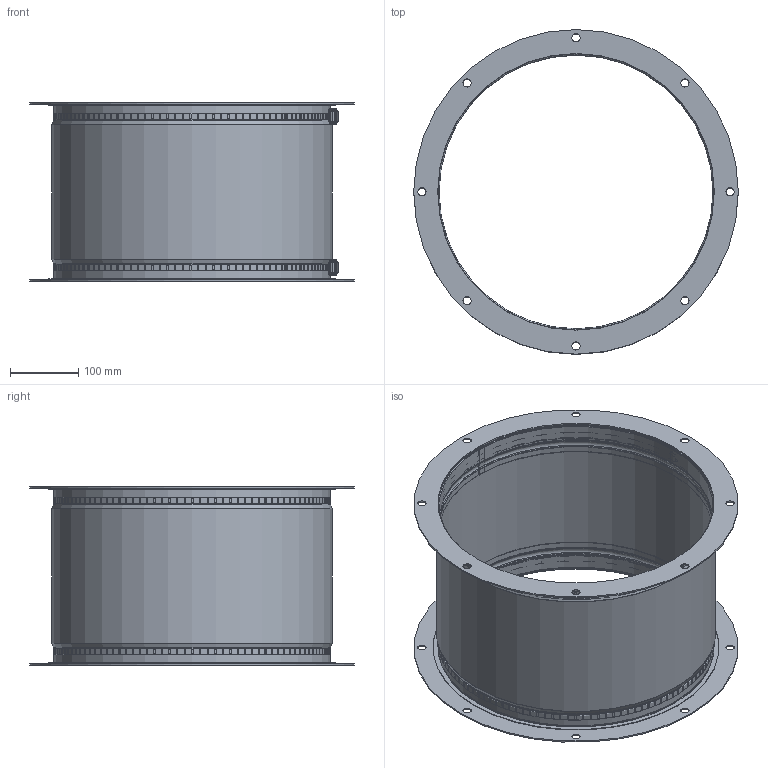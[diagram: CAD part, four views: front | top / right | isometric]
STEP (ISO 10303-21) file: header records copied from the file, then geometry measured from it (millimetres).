
FILE_DESCRIPTION(/* description */ ('Antivibration connector P-DRG ZPD-630 SE'),/* implementation_level */ '2;1');
FILE_NAME(/* name */ 'Y:\VaultRobocze\Designs\2\0\02\900 4590\2 002 900 4590.stp',/* time_stamp */ '2018-03-30T10:39:49+02:00',/* author */ ('TomaszCie'),/* organization */ (''),/* preprocessor_version */ 'ST-DEVELOPER v16.13',/* originating_system */ 'Autodesk Inventor 2018',/* authorisation */ '');
FILE_SCHEMA (('AUTOMOTIVE_DESIGN { 1 0 10303 214 3 1 1 }'));
Length unit declared in the file: millimetre
Products named in the file (10): 2 002 900 4590; 2 002 901 4590; 2 002 901 3691; 2 002 901 3692 1; Compensator ZPD-630 400C; Duct clisp SBF; k0043_1430701_03; k0043_1430701_02; k0043_1430701_01; Tape SBF
Assembly tree (12 placements, depth 3):
  2 002 900 4590
    2 002 901 4590  x2
      2 002 901 3691
      2 002 901 3692 1
    Compensator ZPD-630 400C
    Duct clisp SBF  x2
      k0043_1430701_03
      k0043_1430701_02
      k0043_1430701_01
    Tape SBF  x2
Bounding box: 474 x 474 x 260 mm (x, y, z)
Volume: 508517.6 mm3; surface area: 1209389 mm2
Topology: 13 solids, 13 shells, 2732 faces, 7304 edges, 4842 vertices
Faces by surface type: plane 1554, cylinder 1130, bspline 28, torus 16, cone 4
Full cylindrical faces by diameter (mm): 12 x16, 403 x2, 403.5 x2, 404 x2, 408 x1, 409 x1, 474 x2
Entity records: 46243 total; most frequent: CARTESIAN_POINT 11554, ORIENTED_EDGE 7266, DIRECTION 7035, EDGE_CURVE 3633, AXIS2_PLACEMENT_3D 2512, VERTEX_POINT 2419, LINE 2011, VECTOR 2011
